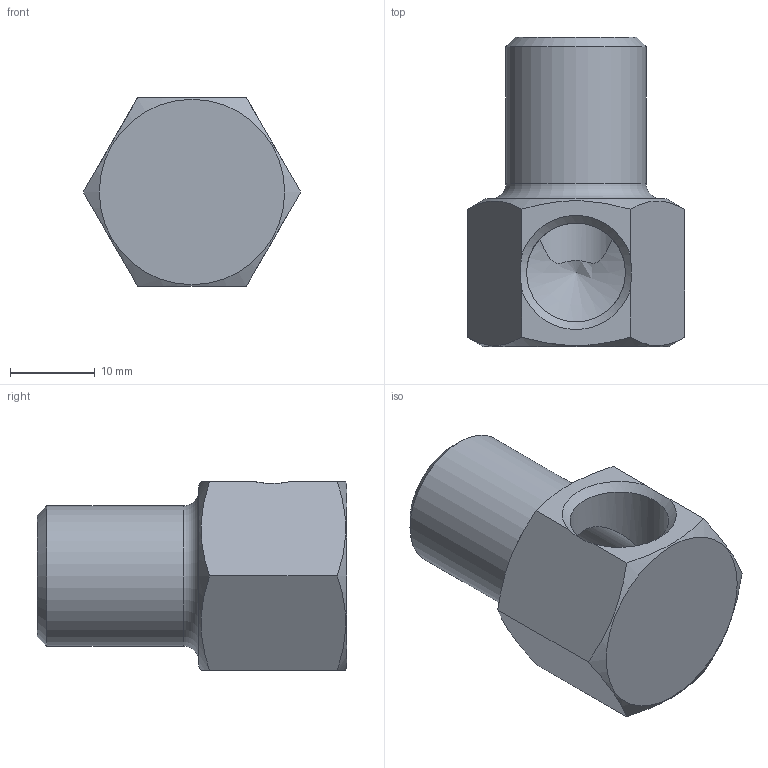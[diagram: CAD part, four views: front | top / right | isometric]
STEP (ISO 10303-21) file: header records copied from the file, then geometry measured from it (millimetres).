
FILE_DESCRIPTION(/* description */ (''),/* implementation_level */ '2;1');
FILE_NAME(/* name */ 'C:/Users/drich/Desktop/M1438S-M1438SB v1.step',/* time_stamp */ '2019-12-27T18:06:28-06:00',/* author */ (''),/* organization */ (''),/* preprocessor_version */ 'ST-DEVELOPER v18',/* originating_system */ 'Autodesk Translation Framework v8.12.0.6',/* authorisation */ '');
FILE_SCHEMA (('AUTOMOTIVE_DESIGN { 1 0 10303 214 3 1 1 }'));
Length unit declared in the file: inch
Products named in the file (1): M1438S-M1438SB
Bounding box: 25.66 x 36.5 x 22.23 mm (x, y, z)
Volume: 7231.1 mm3; surface area: 4256.8 mm2
Topology: 1 solids, 1 shells, 23 faces, 62 edges, 40 vertices
Faces by surface type: plane 10, cone 8, cylinder 4, torus 1
Full cylindrical faces by diameter (mm): 11.668 x1, 11.887 x1, 16.537 x1
Entity records: 821 total; most frequent: CARTESIAN_POINT 247, ORIENTED_EDGE 122, DIRECTION 104, EDGE_CURVE 61, AXIS2_PLACEMENT_3D 43, VERTEX_POINT 40, EDGE_LOOP 25, FACE_OUTER_BOUND 23
